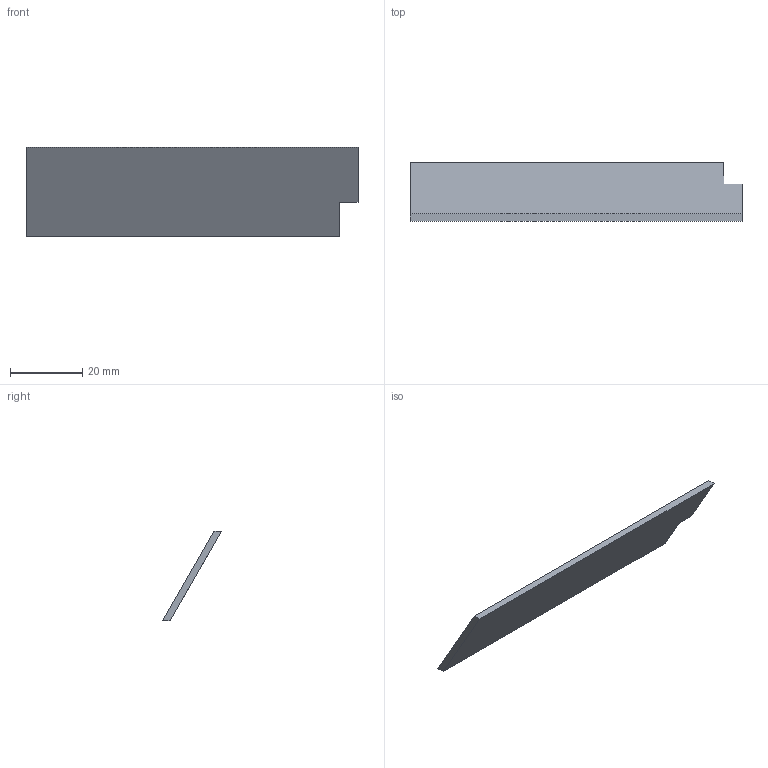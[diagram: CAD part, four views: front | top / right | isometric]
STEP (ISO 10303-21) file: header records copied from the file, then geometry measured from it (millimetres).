
FILE_DESCRIPTION(/* description */ (''),/* implementation_level */ '2;1');
FILE_NAME(/* name */ 'rampa_frontal.step',/* time_stamp */ '2026-03-08T22:57:39+01:00',/* author */ (''),/* organization */ (''),/* preprocessor_version */ 'ST-DEVELOPER v20.1',/* originating_system */ 'Autodesk Translation Framework v14.24.0.0',/* authorisation */ '');
FILE_SCHEMA (('AUTOMOTIVE_DESIGN { 1 0 10303 214 3 1 1 }'));
Length unit declared in the file: millimetre
Products named in the file (1): Flanders (v3~recovered)
Bounding box: 91.8 x 16.24 x 24.8 mm (x, y, z)
Volume: 4616.4 mm3; surface area: 5611.5 mm2
Topology: 1 solids, 1 shells, 8 faces, 18 edges, 12 vertices
Faces by surface type: plane 8
Entity records: 279 total; most frequent: CARTESIAN_POINT 39, ORIENTED_EDGE 36, DIRECTION 36, LINE 18, VECTOR 18, EDGE_CURVE 18, VERTEX_POINT 12, AXIS2_PLACEMENT_3D 9
